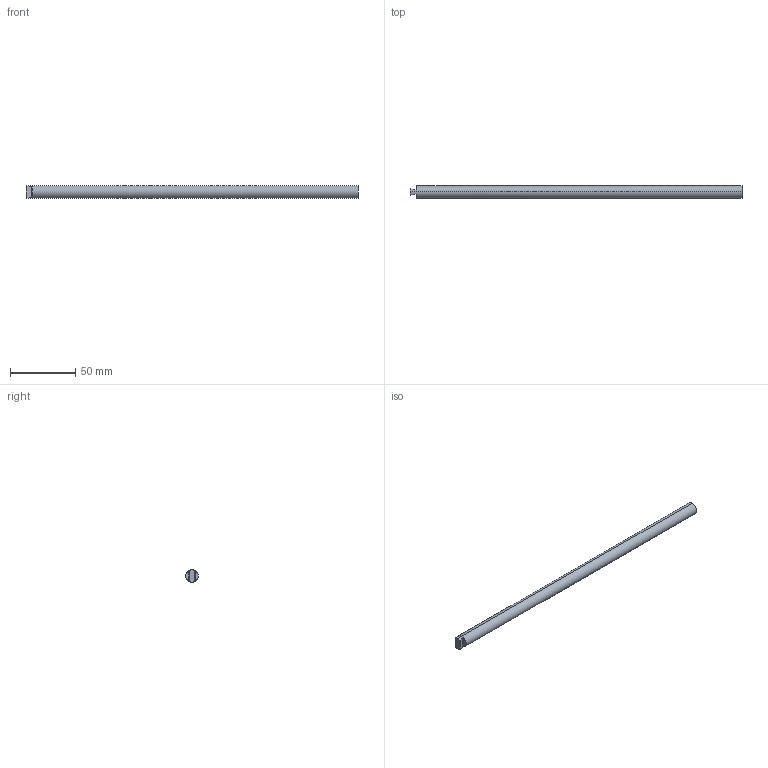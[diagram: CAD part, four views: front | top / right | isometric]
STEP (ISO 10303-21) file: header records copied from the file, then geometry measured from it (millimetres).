
FILE_DESCRIPTION (( 'STEP AP203' ), '1' );
FILE_NAME ('ALR0375_2020-09-29.STEP', '2021-01-11T21:26:21', ( '' ), ( '' ), 'SwSTEP 2.0', 'SolidWorks 2020', '' );
FILE_SCHEMA (( 'CONFIG_CONTROL_DESIGN' ));
Length unit declared in the file: inch
Products named in the file (1): ALR0375_2020-09-29
Bounding box: 254 x 9.53 x 9.53 mm (x, y, z)
Volume: 17917.9 mm3; surface area: 7754 mm2
Topology: 1 solids, 1 shells, 159 faces, 429 edges, 286 vertices
Faces by surface type: plane 78, bspline 65, cylinder 16
Entity records: 7342 total; most frequent: CARTESIAN_POINT 3941, ORIENTED_EDGE 858, EDGE_CURVE 429, DIRECTION 417, VERTEX_POINT 286, VECTOR 211, LINE 211, EDGE_LOOP 173
